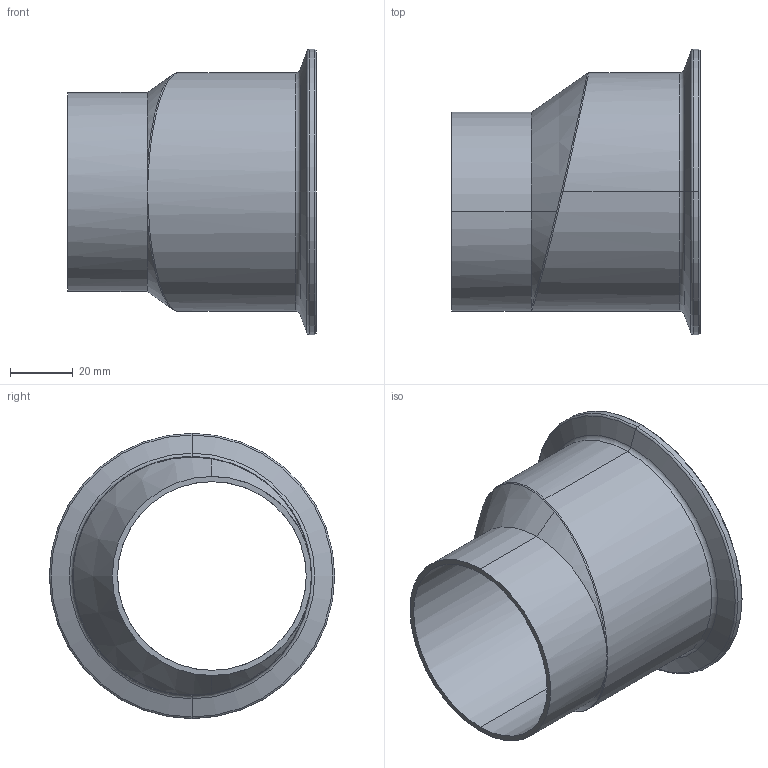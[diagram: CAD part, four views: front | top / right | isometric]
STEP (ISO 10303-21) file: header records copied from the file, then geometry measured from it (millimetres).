
FILE_DESCRIPTION (( 'STEP AP214' ), '1' );
FILE_NAME ('TE32SCW6L3.0x2.5-...STEP', '2016-06-01T10:30:26', ( 'eran' ), ( '' ), 'SwSTEP 2.0', 'SolidWorks 2016', '' );
FILE_SCHEMA (( 'AUTOMOTIVE_DESIGN' ));
Length unit declared in the file: millimetre
Products named in the file (1): TE32SCW6L3.0x2.5-..
Bounding box: 79.38 x 91 x 91 mm (x, y, z)
Volume: 74795.2 mm3; surface area: 38608.8 mm2
Topology: 1 solids, 1 shells, 47 faces, 104 edges, 56 vertices
Faces by surface type: cone 16, torus 13, cylinder 10, bspline 5, plane 3
Entity records: 2119 total; most frequent: CARTESIAN_POINT 1082, DIRECTION 228, ORIENTED_EDGE 200, AXIS2_PLACEMENT_3D 102, EDGE_CURVE 100, CIRCLE 59, VERTEX_POINT 56, EDGE_LOOP 50
